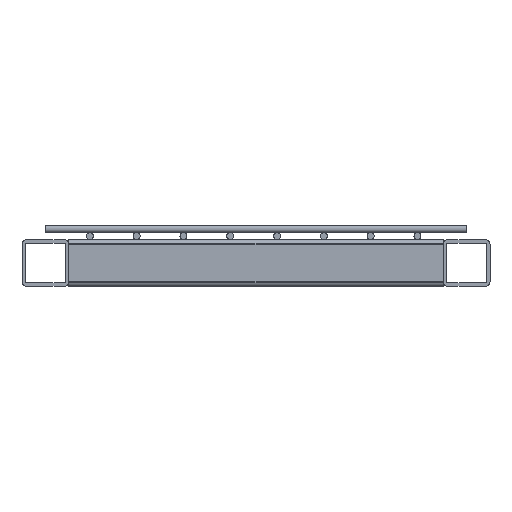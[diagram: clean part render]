
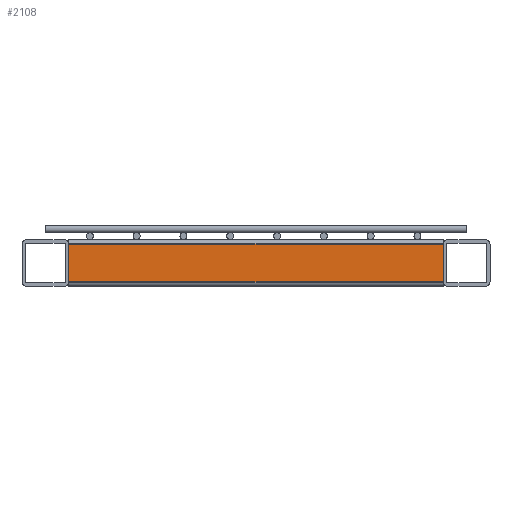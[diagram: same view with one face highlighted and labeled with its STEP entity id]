
A CAD part, front view. The second image highlights one B-rep face of the part: STEP entity #2108.
In plain terms, the highlighted planar face has unit normal (0, -1, 0).
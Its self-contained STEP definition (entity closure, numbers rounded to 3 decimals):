
#445 = VERTEX_POINT ( 'NONE', #2247 ) ;
#459 = CARTESIAN_POINT ( 'NONE',  ( -80., -300., 8. ) ) ;
#460 = CARTESIAN_POINT ( 'NONE',  ( 80., -300., -8. ) ) ;
#529 = ORIENTED_EDGE ( 'NONE', *, *, #1930, .F. ) ;
#530 = ORIENTED_EDGE ( 'NONE', *, *, #2546, .F. ) ;
#643 = DIRECTION ( 'NONE',  ( 0., 0., -1. ) ) ;
#744 = CARTESIAN_POINT ( 'NONE',  ( 100., -300., 8. ) ) ;
#780 = PLANE ( 'NONE',  #1776 ) ;
#922 = VERTEX_POINT ( 'NONE', #459 ) ;
#1020 = VECTOR ( 'NONE', #1432, 1000. ) ;
#1147 = LINE ( 'NONE', #744, #3153 ) ;
#1248 = ORIENTED_EDGE ( 'NONE', *, *, #4025, .F. ) ;
#1432 = DIRECTION ( 'NONE',  ( 0., 0., 1. ) ) ;
#1453 = LINE ( 'NONE', #3220, #1020 ) ;
#1687 = ORIENTED_EDGE ( 'NONE', *, *, #1691, .T. ) ;
#1691 = EDGE_CURVE ( 'NONE', #3507, #922, #1147, .T. ) ;
#1720 = LINE ( 'NONE', #2106, #3854 ) ;
#1776 = AXIS2_PLACEMENT_3D ( 'NONE', #2534, #2892, #1819 ) ;
#1819 = DIRECTION ( 'NONE',  ( 0., 0., 1. ) ) ;
#1930 = EDGE_CURVE ( 'NONE', #3507, #2250, #1720, .T. ) ;
#2078 = CARTESIAN_POINT ( 'NONE',  ( 80., -300., 8. ) ) ;
#2106 = CARTESIAN_POINT ( 'NONE',  ( 80., -300., -8. ) ) ;
#2108 = ADVANCED_FACE ( 'NONE', ( #4061 ), #780, .F. ) ;
#2116 = DIRECTION ( 'NONE',  ( -1., 0., 0. ) ) ;
#2247 = CARTESIAN_POINT ( 'NONE',  ( -80., -300., -8. ) ) ;
#2250 = VERTEX_POINT ( 'NONE', #460 ) ;
#2304 = VECTOR ( 'NONE', #2116, 1000. ) ;
#2534 = CARTESIAN_POINT ( 'NONE',  ( 100., -300., -8. ) ) ;
#2546 = EDGE_CURVE ( 'NONE', #445, #922, #1453, .T. ) ;
#2671 = EDGE_LOOP ( 'NONE', ( #530, #1248, #529, #1687 ) ) ;
#2892 = DIRECTION ( 'NONE',  ( 0., 1., 0. ) ) ;
#3153 = VECTOR ( 'NONE', #3305, 1000. ) ;
#3220 = CARTESIAN_POINT ( 'NONE',  ( -80., -300., -8. ) ) ;
#3305 = DIRECTION ( 'NONE',  ( -1., 0., 0. ) ) ;
#3507 = VERTEX_POINT ( 'NONE', #2078 ) ;
#3854 = VECTOR ( 'NONE', #643, 1000. ) ;
#3947 = CARTESIAN_POINT ( 'NONE',  ( 100., -300., -8. ) ) ;
#4025 = EDGE_CURVE ( 'NONE', #2250, #445, #4756, .T. ) ;
#4061 = FACE_OUTER_BOUND ( 'NONE', #2671, .T. ) ;
#4756 = LINE ( 'NONE', #3947, #2304 ) ;
